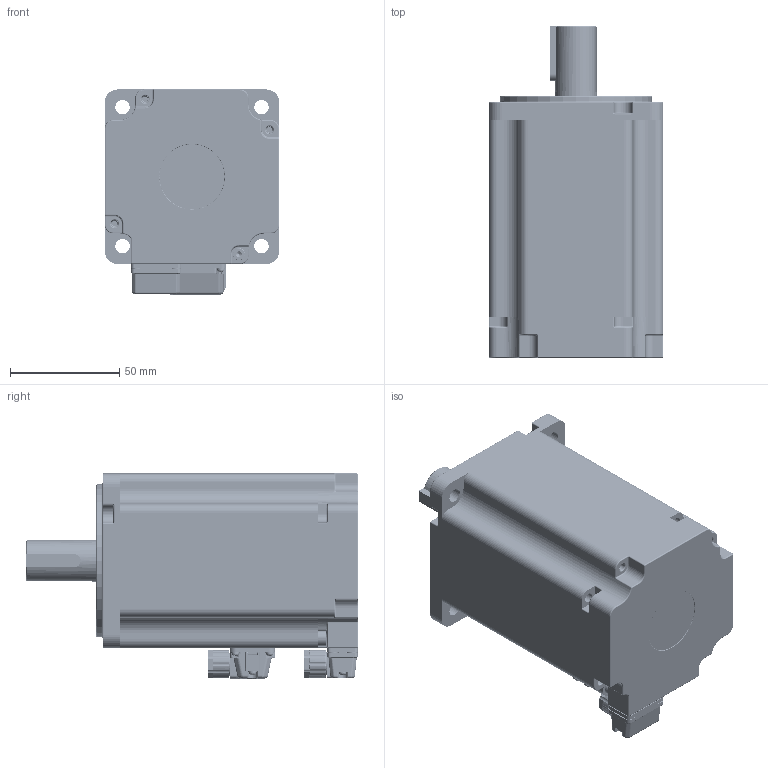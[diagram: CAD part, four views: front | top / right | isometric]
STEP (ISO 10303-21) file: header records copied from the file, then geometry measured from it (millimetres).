
FILE_DESCRIPTION (( 'STEP AP214' ), '1' );
FILE_NAME ('750W笢嫦講萇儂.STEP', '2021-07-01T02:28:35', ( '' ), ( '' ), 'SwSTEP 2.0', 'SolidWorks 2014', '' );
FILE_SCHEMA (( 'AUTOMOTIVE_DESIGN' ));
Length unit declared in the file: millimetre
Products named in the file (20): 囀鞠褒 M3X8; 60-80蚳蚚雄薯脣釱-sc-mc6p-ac-goubanchazuo; 60-80蚳蚚雄薯脣芛-SC-MC6S-AC-GOUBANLUOSIXING; 囀鞠褒 ISO 4762 M4 x12--20201221; 750W笢嫦講萇儂-粣; 750w笢嫦講-儂褲; 粟菜 M3; 80#新O型圈 -71内径-直径2; 80#陔晤鎢ん欶躇猾菜; SC40陔晤鎢ん瑤脣釱sc-mc7p-a6-zhichuxianchazuo; 750W笢嫦講萇儂; SC40陔晤鎢ん瑤脣芛sc-mc7s-a6-zhixianchatou; 囀鞠褒 ISO 4762 M3 x 12 --- 12N; 80#陔晤鎢ん欶; 750W隅赽郪璃; 80#陔綴傷裔; 80#陔ヶ傷裔; 蚐猾 D00B999YF5-TC 20-30-5-1; 普通型 平键   C 6x6x25 带M3起键螺钉孔; す菜 M3
Assembly tree (21 placements, depth 3):
  750W笢嫦講萇儂
    750W隅赽郪璃
      750w笢嫦講-儂褲
      80#陔ヶ傷裔
      60-80蚳蚚雄薯脣芛-SC-MC6S-AC-GOUBANLUOSIXING
      60-80蚳蚚雄薯脣釱-sc-mc6p-ac-goubanchazuo
    80#陔綴傷裔
    80#陔晤鎢ん欶
    SC40陔晤鎢ん瑤脣芛sc-mc7s-a6-zhixianchatou
    SC40陔晤鎢ん瑤脣釱sc-mc7p-a6-zhichuxianchazuo
    80#陔晤鎢ん欶躇猾菜
    80#新O型圈 -71内径-直径2  x2
    蚐猾 D00B999YF5-TC 20-30-5-1
    750W笢嫦講萇儂-粣
    囀鞠褒 ISO 4762 M4 x12--20201221  x2
    囀鞠褒 M3X8
    粟菜 M3
    す菜 M3
    普通型 平键   C 6x6x25 带M3起键螺钉孔
    囀鞠褒 ISO 4762 M3 x 12 --- 12N
Bounding box: 80 x 152 x 94 mm (x, y, z)
Volume: 263093.4 mm3; surface area: 144515.9 mm2
Topology: 29 solids, 29 shells, 7129 faces, 18525 edges, 11512 vertices
Faces by surface type: plane 3384, cylinder 2269, bspline 931, torus 226, cone 221, sphere 98
Entity records: 268987 total; most frequent: CARTESIAN_POINT 101805, ORIENTED_EDGE 36614, DIRECTION 30924, EDGE_CURVE 18307, VERTEX_POINT 11451, VECTOR 10944, LINE 10944, AXIS2_PLACEMENT_3D 9990
